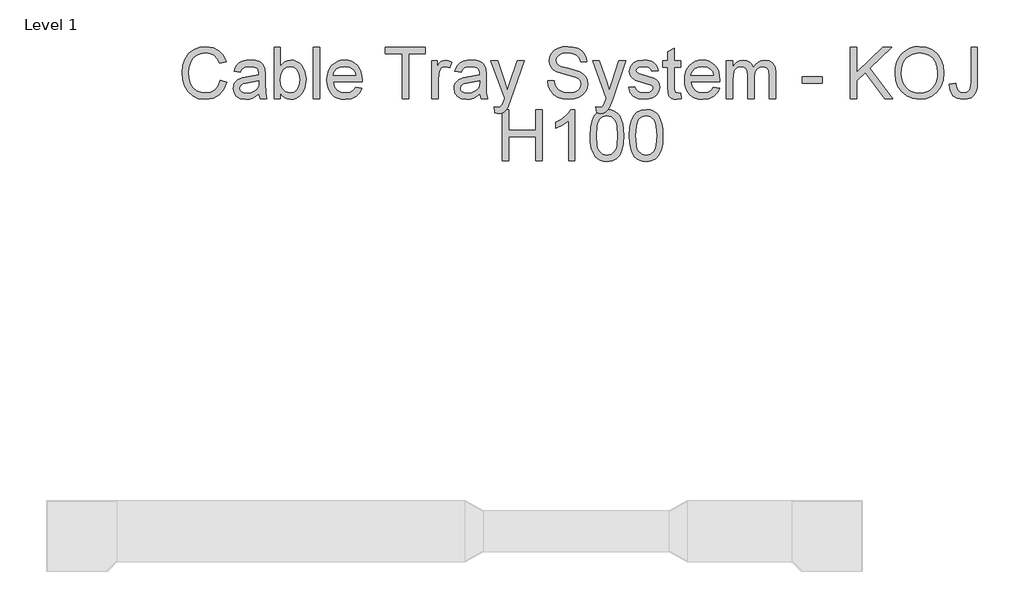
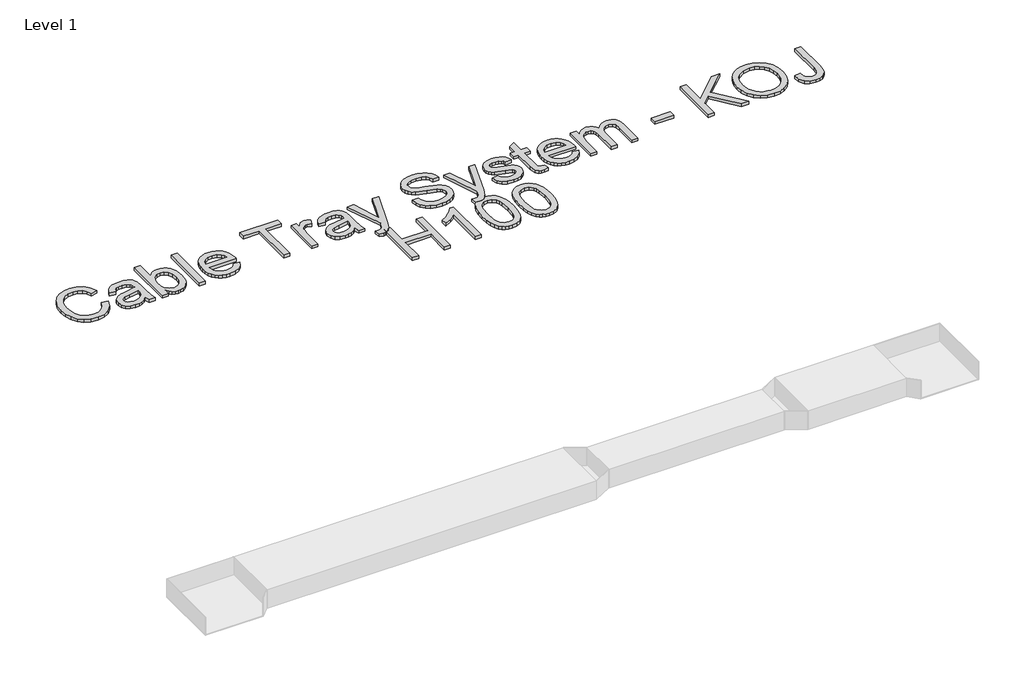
# One storey, part 99 of 106: 1 proxy.
"""IFC4 building model written with IfcOpenShell, lengths in millimetres."""

from ifc_helpers import new_model, si_unit, origin, origin_with_axes, place, context, project, spatial, polyline, outline, extrude, element, save

model = new_model("IFC4")

# Units and contexts
model_context = context("Model", 3, world=origin())
ifc_project = project(units=[si_unit("LENGTHUNIT", "METRE", prefix="MILLI")], contexts=[model_context])

# Site, building, storey
site = spatial("IfcSite", under=ifc_project)
building = spatial("IfcBuilding", under=site)
storey = spatial("IfcBuildingStorey", under=building, Name="Level 1", Elevation=0.0)

# Proxy
placement = place(None, origin())
element("IfcBuildingElementProxy", 1, Name="250mm Arial 3", ObjectType="250mm Arial 3", at=placement, inside=storey, context=model_context, shape_type="SweptSolid", body=[
    extrude(outline(polyline([(165659.6286386, 48792.4106539), (165691.0212356, 48784.31725), (165676.535882, 48747.7359841), (165653.8038404, 48721.01089), (165623.9440851, 48704.6631338), (165588.0755906, 48699.2138818), (165551.6629373, 48703.3372258), (165522.7458796, 48715.7072579), (165500.5809894, 48735.8947824), (165484.4248384, 48763.4706036), (165474.5610024, 48795.8902044), (165471.2730571, 48830.6090677), (165474.9901981, 48867.2286547), (165486.1416211, 48898.8511778), (165504.1448462, 48924.472626), (165528.4173937, 48943.0889877), (165557.2041598, 48954.4243517), (165588.7500409, 48958.2028064), (165623.1700001, 48953.3130415), (165651.6272053, 48938.643747), (165673.2326083, 48915.0992993), (165687.097161, 48883.584075), (165655.704564, 48876.1038078), (165644.8213883, 48898.9967978), (165629.9528244, 48914.7007605), (165610.9149311, 48923.7828472), (165587.5237676, 48926.8102095), (165560.561083, 48923.4532863), (165538.4115212, 48913.3825166), (165521.6039126, 48897.6555613), (165510.6670874, 48877.3300811), (165504.6660124, 48854.3527848), (165502.665654, 48830.6703814), (165505.0338944, 48801.6690174), (165512.1386154, 48776.5917281), (165524.2480644, 48756.3965394), (165541.6304887, 48742.0414774), (165562.4694709, 48733.4652284), (165584.9485936, 48730.6064787), (165611.1525216, 48734.4998965), (165632.9878508, 48746.1801498), (165649.4735627, 48765.5246114), (165659.6286386, 48792.4106539)])), origin_with_axes(), (0.0, 0.0, 1.0), 15.0),
    extrude(outline(polyline([(165847.9842202, 48726.6824041), (165832.9853647, 48713.8218627), (165817.5419851, 48705.406562), (165801.3015278, 48700.7620518), (165783.9114394, 48699.2138818), (165757.6768546, 48702.938687), (165738.3247288, 48714.1131026), (165726.3915566, 48731.0816596), (165722.4138325, 48752.1888891), (165723.9160173, 48765.2027147), (165728.4225717, 48777.0209238), (165744.2108407, 48795.0471415), (165766.1917899, 48805.3478374), (165793.3537439, 48810.0689897), (165847.8002792, 48820.8601949), (165847.9842202, 48827.8499528), (165845.8229135, 48841.8601254), (165839.3389933, 48851.0265185), (165824.8383113, 48857.8323354), (165804.6354584, 48860.100941), (165785.9347903, 48858.591092), (165772.8749795, 48854.0615449), (165763.9691695, 48845.6845653), (165757.730504, 48832.6324187), (165726.3379071, 48836.5564933), (165731.7871592, 48853.7243198), (165739.9188841, 48867.2133262), (165751.4918385, 48877.5293505), (165767.2647791, 48885.1782303), (165786.5555912, 48889.914711), (165808.6821604, 48891.4935379), (165829.904353, 48890.098652), (165846.72729, 48885.9139943), (165859.4115547, 48879.6216794), (165868.2177299, 48871.9038217), (165877.8439755, 48850.5973228), (165879.3768171, 48823.1288005), (165879.3768171, 48784.0719953), (165880.9709724, 48729.5334895), (165887.2249663, 48703.1379564), (165855.8323694, 48703.1379564), (165847.9842202, 48726.6824041)]), holes=[polyline([(165847.9842202, 48789.4675979), (165797.3391322, 48779.8413524), (165770.3304624, 48774.7523181), (165758.098386, 48766.4749732), (165753.8064294, 48754.3961811), (165756.1440129, 48745.0611754), (165763.1567635, 48737.4122956), (165774.6913968, 48732.3079329), (165790.5946289, 48730.6064787), (165807.455887, 48732.4842097), (165822.3551078, 48738.1174028), (165834.4339, 48746.4177403), (165842.8338722, 48756.2969047), (165846.5586774, 48766.4749732), (165847.8002792, 48780.5771164), (165847.9842202, 48789.4675979)])]), origin_with_axes(), (0.0, 0.0, 1.0), 15.0),
    extrude(outline(polyline([(165953.9342348, 48703.1379564), (165922.5416379, 48703.1379564), (165922.5416379, 48954.2787318), (165953.9342348, 48954.2787318), (165953.9342348, 48861.1432733), (165964.2579233, 48874.4215141), (165975.915184, 48883.9059718), (165988.906017, 48889.5966464), (166003.2304221, 48891.4935379), (166019.4019015, 48889.7844195), (166034.6843327, 48884.6570642), (166048.2039961, 48876.4333687), (166059.0871717, 48865.4352299), (166074.078363, 48835.5448178), (166079.5046225, 48798.1128248), (166073.8867578, 48756.2049342), (166066.864427, 48739.2746982), (166057.0331639, 48725.0269351), (166045.2321993, 48713.7337243), (166032.300764, 48705.6671451), (166018.2388579, 48700.8271976), (166003.0464811, 48699.2138818), (165988.2507272, 48701.2947143), (165975.1334348, 48707.5372119), (165963.694604, 48717.9413746), (165953.9342348, 48732.5072023), (165953.9342348, 48703.1379564)]), holes=[polyline([(165953.9342348, 48796.6412968), (165956.0802131, 48770.4603615), (165962.518148, 48752.7407121), (165978.9655389, 48736.140037), (166000.3486798, 48730.6064787), (166018.4668681, 48734.6838375), (166033.9485687, 48746.9159138), (166044.5711614, 48767.2260656), (166048.1120256, 48795.5376509), (166044.7167813, 48824.2631033), (166034.5310486, 48844.3433289), (166019.5321931, 48856.161538), (166001.6975805, 48860.100941), (165983.5793922, 48856.0235822), (165968.0976916, 48843.7915059), (165957.475099, 48823.8492361), (165953.9342348, 48796.6412968)])]), origin_with_axes(), (0.0, 0.0, 1.0), 15.0),
    extrude(outline(polyline([(166114.821294, 48703.1379564), (166114.821294, 48954.2787318), (166146.2138909, 48954.2787318), (166146.2138909, 48703.1379564), (166114.821294, 48703.1379564)])), origin_with_axes(), (0.0, 0.0, 1.0), 15.0),
    extrude(outline(polyline([(166322.4293666, 48758.075001), (166353.2088269, 48754.1509264), (166342.1187176, 48730.9590323), (166324.4220608, 48713.6225933), (166300.5173953, 48702.8160596), (166270.80326, 48699.2138818), (166251.3246747, 48700.7678), (166233.9690752, 48705.4295547), (166218.7364613, 48713.1991458), (166205.6268332, 48724.0765733), (166195.0847147, 48737.759101), (166187.5546301, 48753.9439928), (166183.0365794, 48772.6312485), (166181.5305625, 48793.8208682), (166183.0519078, 48815.7290074), (166187.6159438, 48835.0389801), (166195.2226705, 48851.7507861), (166205.8720878, 48865.8644256), (166218.9472271, 48877.0771622), (166233.8311195, 48885.0862598), (166250.523765, 48889.8917184), (166269.0251637, 48891.4935379), (166286.9306701, 48889.8955505), (166303.1232261, 48885.1015883), (166317.6028315, 48877.1116512), (166330.3694864, 48865.9257393), (166340.7908935, 48851.8427566), (166348.2347557, 48835.1616074), (166352.7010731, 48815.8822916), (166354.1898455, 48794.0048092), (166354.0059045, 48785.5435233), (166212.9231594, 48785.5435233), (166218.357083, 48762.0450609), (166230.980034, 48744.7699355), (166249.197857, 48734.1473429), (166271.4163966, 48730.6064787), (166288.1243706, 48732.2466193), (166302.1958569, 48737.1670409), (166313.6308556, 48745.6743121), (166322.4293666, 48758.075001)]), holes=[polyline([(166212.9231594, 48816.9361202), (166322.7972486, 48816.9361202), (166318.5512773, 48833.5214669), (166310.2279471, 48845.3856612), (166291.9258179, 48856.4221211), (166268.9025363, 48860.100941), (166247.7416574, 48857.1655493), (166230.24427, 48848.359374), (166218.0811715, 48834.632777), (166212.9231594, 48816.9361202)])]), origin_with_axes(), (0.0, 0.0, 1.0), 15.0),
    extrude(outline(polyline([(166550.3935763, 48703.1379564), (166550.3935763, 48922.8861348), (166467.9880094, 48922.8861348), (166467.9880094, 48954.2787318), (166664.1917401, 48954.2787318), (166664.1917401, 48922.8861348), (166581.7861732, 48922.8861348), (166581.7861732, 48703.1379564), (166550.3935763, 48703.1379564)])), origin_with_axes(), (0.0, 0.0, 1.0), 15.0),
    extrude(outline(polyline([(166695.5843371, 48703.1379564), (166695.5843371, 48887.5694633), (166723.0528594, 48887.5694633), (166723.0528594, 48860.284882), (166733.2002711, 48876.1038078), (166742.5506051, 48885.423485), (166762.1709782, 48891.4935379), (166777.805963, 48889.0716481), (166793.6862024, 48881.8059787), (166783.2015656, 48853.6630061), (166761.1286459, 48860.100941), (166751.7553192, 48858.5527709), (166743.3783396, 48853.9082608), (166732.0659683, 48836.7404343), (166726.976934, 48800.0748621), (166726.976934, 48703.1379564), (166695.5843371, 48703.1379564)])), origin_with_axes(), (0.0, 0.0, 1.0), 15.0),
    extrude(outline(polyline([(166931.028814, 48726.6824041), (166916.0299585, 48713.8218627), (166900.5865789, 48705.406562), (166884.3461216, 48700.7620518), (166866.9560332, 48699.2138818), (166840.7214484, 48702.938687), (166821.3693226, 48714.1131026), (166809.4361504, 48731.0816596), (166805.4584263, 48752.1888891), (166806.9606111, 48765.2027147), (166811.4671655, 48777.0209238), (166827.2554345, 48795.0471415), (166849.2363837, 48805.3478374), (166876.3983377, 48810.0689897), (166930.844873, 48820.8601949), (166931.028814, 48827.8499528), (166928.8675073, 48841.8601254), (166922.3835871, 48851.0265185), (166907.8829051, 48857.8323354), (166887.6800522, 48860.100941), (166868.9793841, 48858.591092), (166855.9195733, 48854.0615449), (166847.0137633, 48845.6845653), (166840.7750978, 48832.6324187), (166809.3825009, 48836.5564933), (166814.831753, 48853.7243198), (166822.9634779, 48867.2133262), (166834.5364323, 48877.5293505), (166850.3093729, 48885.1782303), (166869.600185, 48889.914711), (166891.7267542, 48891.4935379), (166912.9489468, 48890.098652), (166929.7718838, 48885.9139943), (166942.4561485, 48879.6216794), (166951.2623237, 48871.9038217), (166960.8885693, 48850.5973228), (166962.4214109, 48823.1288005), (166962.4214109, 48784.0719953), (166964.0155662, 48729.5334895), (166970.2695601, 48703.1379564), (166938.8769632, 48703.1379564), (166931.028814, 48726.6824041)]), holes=[polyline([(166931.028814, 48789.4675979), (166880.383726, 48779.8413524), (166853.3750562, 48774.7523181), (166841.1429798, 48766.4749732), (166836.8510232, 48754.3961811), (166839.1886067, 48745.0611754), (166846.2013573, 48737.4122956), (166857.7359906, 48732.3079329), (166873.6392227, 48730.6064787), (166890.5004808, 48732.4842097), (166905.3997016, 48738.1174028), (166917.4784938, 48746.4177403), (166925.878466, 48756.2969047), (166929.6032712, 48766.4749732), (166930.844873, 48780.5771164), (166931.028814, 48789.4675979)])]), origin_with_axes(), (0.0, 0.0, 1.0), 15.0),
    extrude(outline(polyline([(167005.5862317, 48632.5046133), (167001.6621571, 48662.7322506), (167017.6037102, 48659.9731356), (167032.502931, 48663.4373577), (167041.6386672, 48673.0942601), (167050.2225804, 48696.2095122), (167052.6751271, 48703.8124067), (166985.9658586, 48887.5694633), (167019.0139245, 48887.5694633), (167054.4532234, 48785.1143277), (167066.7772702, 48744.1567989), (167079.101317, 48780.3931754), (167115.4603209, 48887.5694633), (167148.2631321, 48887.5694633), (167084.067724, 48698.7233725), (167067.3904069, 48657.7658437), (167058.8524789, 48644.6907044), (167049.1802481, 48635.6316103), (167037.9598472, 48630.3433066), (167024.7774091, 48628.5805387), (167005.5862317, 48632.5046133)])), origin_with_axes(), (0.0, 0.0, 1.0), 15.0),
    extrude(outline(polyline([(167264.5751563, 48789.4675979), (167295.9677532, 48789.4675979), (167299.5699311, 48772.0468526), (167306.0845081, 48758.0443442), (167316.2472482, 48746.9312422), (167330.7939154, 48738.1787164), (167348.5748785, 48732.4995381), (167368.4405062, 48730.6064787), (167385.9302294, 48732.0396856), (167401.2433175, 48736.3393065), (167413.6516706, 48743.1451234), (167422.427189, 48752.0969186), (167427.6465148, 48762.3746218), (167429.3862901, 48773.1581628), (167424.1746285, 48792.7478791), (167416.2345088, 48800.4963936), (167402.8374728, 48807.0033064), (167357.1281349, 48818.990128), (167307.923918, 48834.4718287), (167292.2965975, 48845.0331076), (167281.2218166, 48857.8323354), (167274.6229333, 48872.5936004), (167272.4233055, 48889.0409913), (167275.1440994, 48907.4274268), (167283.3064812, 48924.5722607), (167296.695853, 48939.1035995), (167315.0976169, 48949.64955), (167337.1858651, 48956.0644923), (167361.6346893, 48958.2028064), (167388.122193, 48955.9648576), (167411.2987587, 48949.2510112), (167430.3366519, 48938.1992229), (167444.4081382, 48922.9474485), (167453.3139482, 48904.4460498), (167456.8548124, 48883.6453887), (167425.4622155, 48883.6453887), (167419.6987309, 48902.3767136), (167407.6812524, 48915.8963769), (167388.9039422, 48924.0817513), (167362.8609627, 48926.8102095), (167336.2048464, 48924.1124082), (167317.9180456, 48916.0190043), (167307.3414382, 48904.1088247), (167303.8159024, 48889.9606963), (167306.3144343, 48877.8972325), (167313.81003, 48868.1943449), (167331.5296794, 48859.5184612), (167365.0682546, 48850.6586365), (167420.6184359, 48834.9010243), (167438.5143621, 48823.5120109), (167450.9993573, 48809.455853), (167458.3340046, 48792.8858348), (167460.778887, 48773.9552405), (167457.9661226, 48754.6031147), (167449.5278293, 48736.4006201), (167435.8088966, 48720.7349785), (167417.1542138, 48708.9934115), (167394.7210763, 48701.6587642), (167369.6667796, 48699.2138818), (167338.9103119, 48701.8503694), (167313.5954321, 48709.7598323), (167293.4309003, 48722.9729273), (167278.1254764, 48741.5203112), (167268.2999615, 48764.1143971), (167264.5751563, 48789.4675979)])), origin_with_axes(), (0.0, 0.0, 1.0), 15.0),
    extrude(outline(polyline([(167503.9437078, 48632.5046133), (167500.0196332, 48662.7322506), (167515.9611863, 48659.9731356), (167530.8604071, 48663.4373577), (167539.9961433, 48673.0942601), (167548.5800565, 48696.2095122), (167551.0326032, 48703.8124067), (167484.3233347, 48887.5694633), (167517.3714006, 48887.5694633), (167552.8106995, 48785.1143277), (167565.1347463, 48744.1567989), (167577.4587932, 48780.3931754), (167613.817797, 48887.5694633), (167646.6206083, 48887.5694633), (167582.4252001, 48698.7233725), (167565.747883, 48657.7658437), (167557.209955, 48644.6907044), (167547.5377242, 48635.6316103), (167536.3173234, 48630.3433066), (167523.1348852, 48628.5805387), (167503.9437078, 48632.5046133)])), origin_with_axes(), (0.0, 0.0, 1.0), 15.0),
    extrude(outline(polyline([(167660.9066924, 48758.075001), (167692.2992893, 48761.9990756), (167697.2503678, 48748.5713828), (167706.8306281, 48738.6998826), (167721.1013839, 48732.6298297), (167740.1239487, 48730.6064787), (167758.9165873, 48732.4612171), (167772.1296823, 48738.0254323), (167779.9471747, 48746.0881793), (167782.5530055, 48755.4385134), (167779.9318463, 48763.4399468), (167772.0683686, 48769.5406565), (167739.7560667, 48778.4924517), (167692.4832303, 48793.851525), (167680.5194013, 48801.5693827), (167671.8511818, 48811.7857723), (167666.5858707, 48823.8492361), (167664.830767, 48837.1083163), (167670.4716243, 48860.4994798), (167685.8613544, 48878.3724134), (167705.8189527, 48887.6614338), (167732.8276225, 48891.4935379), (167753.2604016, 48889.9530321), (167771.0260363, 48885.3315145), (167785.3121204, 48878.0811735), (167795.306248, 48868.6541974), (167801.9281239, 48856.3531432), (167806.0974532, 48840.4805679), (167774.7048563, 48836.5564933), (167770.7424606, 48846.4356577), (167762.9019756, 48853.8776039), (167751.1067591, 48858.5451067), (167735.2801691, 48860.100941), (167717.2539513, 48858.6140846), (167705.2364728, 48854.1535154), (167698.4766412, 48847.7155805), (167696.2233639, 48840.2966269), (167699.9634976, 48831.1608907), (167711.6744077, 48824.2324465), (167738.7137344, 48817.5492569), (167784.7909543, 48802.7726634), (167796.961717, 48795.7062634), (167806.1894237, 48786.0340326), (167812.0065577, 48773.7253142), (167813.9456024, 48758.7494513), (167811.6693326, 48743.2677507), (167804.840523, 48728.7057551), (167793.7197569, 48716.2054314), (167778.5676172, 48706.9087468), (167760.2654879, 48701.137598), (167739.694753, 48699.2138818), (167708.041573, 48702.9233586), (167684.9416494, 48714.0517889), (167669.5212625, 48732.4765455), (167660.9066924, 48758.075001)])), origin_with_axes(), (0.0, 0.0, 1.0), 15.0),
    extrude(outline(polyline([(167915.9715424, 48729.3188917), (167919.895617, 48702.2182514), (167896.412483, 48699.2138818), (167881.3446496, 48700.5167972), (167870.1089203, 48704.4255434), (167856.9877958, 48718.0984909), (167853.1863486, 48753.7217307), (167853.1863486, 48856.1768664), (167829.6419009, 48856.1768664), (167829.6419009, 48887.5694633), (167853.1863486, 48887.5694633), (167853.1863486, 48932.3897531), (167884.5789455, 48950.8451665), (167884.5789455, 48887.5694633), (167915.9715424, 48887.5694633), (167915.9715424, 48856.1768664), (167884.5789455, 48856.1768664), (167884.5789455, 48754.6414357), (167886.2344145, 48738.4546279), (167891.5993602, 48732.7218002), (167902.2985949, 48730.6064787), (167915.9715424, 48729.3188917)])), origin_with_axes(), (0.0, 0.0, 1.0), 15.0),
    extrude(outline(polyline([(168076.4907196, 48758.075001), (168107.2701799, 48754.1509264), (168096.1800706, 48730.9590323), (168078.4834138, 48713.6225933), (168054.5787483, 48702.8160596), (168024.864613, 48699.2138818), (168005.3860277, 48700.7678), (167988.0304282, 48705.4295547), (167972.7978143, 48713.1991458), (167959.6881862, 48724.0765733), (167949.1460677, 48737.759101), (167941.6159831, 48753.9439928), (167937.0979324, 48772.6312485), (167935.5919155, 48793.8208682), (167937.1132608, 48815.7290074), (167941.6772968, 48835.0389801), (167949.2840235, 48851.7507861), (167959.9334408, 48865.8644256), (167973.0085801, 48877.0771622), (167987.8924725, 48885.0862598), (168004.585118, 48889.8917184), (168023.0865167, 48891.4935379), (168040.9920231, 48889.8955505), (168057.1845791, 48885.1015883), (168071.6641845, 48877.1116512), (168084.4308394, 48865.9257393), (168094.8522465, 48851.8427566), (168102.2961087, 48835.1616074), (168106.7624261, 48815.8822916), (168108.2511985, 48794.0048092), (168108.0672575, 48785.5435233), (167966.9845124, 48785.5435233), (167972.418436, 48762.0450609), (167985.041387, 48744.7699355), (168003.25921, 48734.1473429), (168025.4777496, 48730.6064787), (168042.1857236, 48732.2466193), (168056.2572099, 48737.1670409), (168067.6922086, 48745.6743121), (168076.4907196, 48758.075001)]), holes=[polyline([(167966.9845124, 48816.9361202), (168076.8586016, 48816.9361202), (168072.6126303, 48833.5214669), (168064.2893001, 48845.3856612), (168045.9871709, 48856.4221211), (168022.9638893, 48860.100941), (168001.8030104, 48857.1655493), (167984.305623, 48848.359374), (167972.1425245, 48834.632777), (167966.9845124, 48816.9361202)])]), origin_with_axes(), (0.0, 0.0, 1.0), 15.0),
    extrude(outline(polyline([(168139.6437955, 48703.1379564), (168139.6437955, 48887.5694633), (168171.0363924, 48887.5694633), (168171.0363924, 48857.2191987), (168180.4786969, 48871.1603935), (168192.6188028, 48882.0818902), (168207.0428427, 48889.140626), (168223.3369494, 48891.4935379), (168240.7960157, 48889.0946407), (168254.79086, 48881.8979492), (168265.24484, 48870.3786442), (168272.0813137, 48855.0119067), (168283.5239766, 48870.9726204), (168296.5761232, 48882.3731301), (168311.2377536, 48889.213436), (168327.5088677, 48891.4935379), (168351.1069648, 48887.6997549), (168368.558367, 48876.3184056), (168379.3419079, 48857.0429219), (168382.9364216, 48829.5667354), (168382.9364216, 48703.1379564), (168351.5438247, 48703.1379564), (168351.5438247, 48816.0777289), (168348.6314256, 48842.2893211), (168338.085475, 48855.1958477), (168320.1512278, 48860.100941), (168303.1443497, 48856.9586156), (168289.279797, 48847.5316395), (168280.0597545, 48831.1762191), (168276.986407, 48807.248561), (168276.986407, 48703.1379564), (168245.5938101, 48703.1379564), (168245.5938101, 48819.5726079), (168243.7773927, 48837.3229141), (168238.3281407, 48849.9841861), (168228.7402162, 48857.5717523), (168214.5077815, 48860.100941), (168202.4136609, 48858.4148152), (168191.2699021, 48853.3564378), (168182.0728522, 48845.048436), (168175.8188583, 48833.6134374), (168171.0363924, 48796.1507875), (168171.0363924, 48703.1379564), (168139.6437955, 48703.1379564)])), origin_with_axes(), (0.0, 0.0, 1.0), 15.0),
    extrude(outline(polyline([(168512.4308839, 48777.6953741), (168512.4308839, 48809.087971), (168610.5327493, 48809.087971), (168610.5327493, 48777.6953741), (168512.4308839, 48777.6953741)])), origin_with_axes(), (0.0, 0.0, 1.0), 15.0),
    extrude(outline(polyline([(168747.8753608, 48703.1379564), (168747.8753608, 48954.2787318), (168779.2679577, 48954.2787318), (168779.2679577, 48831.3448317), (168908.0266561, 48954.2787318), (168951.9272408, 48954.2787318), (168843.7699342, 48851.0265185), (168955.8513154, 48703.1379564), (168917.4689606, 48703.1379564), (168821.5130735, 48829.8119901), (168779.2679577, 48789.4675979), (168779.2679577, 48703.1379564), (168747.8753608, 48703.1379564)])), origin_with_axes(), (0.0, 0.0, 1.0), 15.0),
    extrude(outline(polyline([(168967.6235393, 48825.3974061), (168969.7158681, 48854.8547905), (168975.9928547, 48880.932259), (168986.4544989, 48903.6298117), (169001.1008008, 48922.9474485), (169019.0542086, 48938.3716676), (169039.4371704, 48949.3889669), (169062.2496862, 48955.9993465), (169087.491756, 48958.2028064), (169120.432523, 48954.0641339), (169149.9703816, 48941.6481166), (169174.4958479, 48921.8284741), (169192.3994383, 48895.4789262), (169203.3439277, 48863.8717315), (169206.9920908, 48828.2791484), (169203.1523225, 48792.2113845), (169191.6330175, 48760.1596656), (169173.0703052, 48733.7641325), (169148.1003147, 48714.6649256), (169118.8153751, 48703.0766427), (169087.307815, 48699.2138818), (169053.8612103, 48703.4828458), (169024.1547392, 48716.2897377), (168999.6905865, 48736.4772622), (168981.9709371, 48762.8881238), (168971.2103887, 48793.2767094), (168967.6235393, 48825.3974061)]), holes=[polyline([(168999.0161362, 48825.0908378), (169000.5853828, 48804.2786803), (169005.2931227, 48785.8041064), (169013.1393559, 48769.667116), (169024.1240824, 48755.867709), (169037.4770492, 48744.8159208), (169052.4280034, 48736.9217863), (169068.976945, 48732.1853056), (169087.123874, 48730.6064787), (169105.5812035, 48732.200634), (169122.3255825, 48736.9831), (169137.3570109, 48744.9538765), (169150.6754887, 48756.1129637), (169161.579741, 48770.2036105), (169169.3684926, 48786.969066), (169174.0417436, 48806.4093302), (169175.5994939, 48828.5244031), (169172.9323494, 48856.3148221), (169164.930916, 48880.3344507), (169151.8021273, 48899.9778164), (169133.7529169, 48914.6394468), (169111.9789013, 48923.7675188), (169087.675697, 48926.8102095), (169053.9071956, 48920.9470902), (169025.1970715, 48903.3577323), (169013.7429123, 48889.6713724), (169005.56137, 48872.0647701), (169000.6524447, 48850.5379252), (168999.0161362, 48825.0908378)])]), origin_with_axes(), (0.0, 0.0, 1.0), 15.0),
    extrude(outline(polyline([(169234.4606131, 48773.6486721), (169265.85321, 48777.6953741), (169269.1181627, 48754.871362), (169276.5831016, 48740.6006062), (169287.9874434, 48733.1050106), (169303.0706052, 48730.6064787), (169314.6665523, 48732.0243572), (169324.5610451, 48736.2779928), (169332.1945965, 48742.9765108), (169337.0077193, 48751.7290366), (169340.4106277, 48782.845722), (169340.4106277, 48954.2787318), (169371.8032246, 48954.2787318), (169371.8032246, 48783.397545), (169369.9101652, 48755.4461776), (169364.2309869, 48734.6225238), (169354.4361288, 48719.4090705), (169340.1960299, 48708.2883043), (169322.3154321, 48701.4824874), (169301.5990772, 48699.2138818), (169272.5823849, 48703.896713), (169251.2605576, 48717.9452067), (169238.3233741, 48741.2367355), (169234.4606131, 48773.6486721)])), origin_with_axes(), (0.0, 0.0, 1.0), 15.0),
    extrude(outline(polyline([(167040.9029032, 48398.2009118), (167040.9029032, 48649.3416872), (167072.2955001, 48649.3416872), (167072.2955001, 48547.3157472), (167205.714037, 48547.3157472), (167205.714037, 48649.3416872), (167237.106634, 48649.3416872), (167237.106634, 48398.2009118), (167205.714037, 48398.2009118), (167205.714037, 48515.9231502), (167072.2955001, 48515.9231502), (167072.2955001, 48398.2009118), (167040.9029032, 48398.2009118)])), origin_with_axes(), (0.0, 0.0, 1.0), 15.0),
    extrude(outline(polyline([(167397.9936932, 48398.2009118), (167366.6010963, 48398.2009118), (167366.6010963, 48593.9141332), (167336.8639683, 48572.7302617), (167303.8159024, 48556.880679), (167303.8159024, 48586.5564933), (167328.4716603, 48599.9688577), (167349.8318087, 48615.9257393), (167366.6700741, 48632.8942963), (167377.7601835, 48649.3416872), (167397.9936932, 48649.3416872), (167397.9936932, 48398.2009118)])), origin_with_axes(), (0.0, 0.0, 1.0), 15.0),
    extrude(outline(polyline([(167472.5511109, 48521.7479485), (167474.8580376, 48561.9467207), (167481.7788176, 48594.0061037), (167493.2444731, 48618.4166069), (167509.1860262, 48635.6687397), (167529.7184401, 48645.9234503), (167554.9566778, 48649.3416872), (167574.3011394, 48647.3183362), (167591.62225, 48641.2482833), (167606.1076035, 48631.3691189), (167616.944794, 48617.9184334), (167631.6600738, 48580.7623519), (167635.936702, 48555.0489333), (167637.3622447, 48521.7479485), (167635.0783107, 48481.7791026), (167628.2265085, 48449.7963616), (167616.8298309, 48425.3628658), (167600.9112704, 48408.0417552), (167580.3328713, 48397.7180667), (167554.9566778, 48394.2768372), (167537.666224, 48395.7713578), (167522.3378076, 48400.2549196), (167508.9714284, 48407.7275226), (167497.5670866, 48418.1891669), (167486.6225972, 48437.1006007), (167478.8051048, 48460.6642089), (167474.1146094, 48488.8799915), (167472.5511109, 48521.7479485)]), holes=[polyline([(167503.9437078, 48521.8092622), (167507.6225278, 48472.4287685), (167512.2210527, 48455.5387696), (167518.6589876, 48443.848936), (167535.0910501, 48430.2143096), (167554.9566778, 48425.6694341), (167574.8223055, 48430.229638), (167591.254368, 48443.9102497), (167597.6923029, 48455.6192438), (167602.2908278, 48472.5054106), (167605.9696478, 48521.8092622), (167602.4134552, 48570.0784456), (167597.9682144, 48586.912879), (167591.7448773, 48598.8805402), (167575.3434717, 48613.1819527), (167554.5887958, 48617.9490902), (167534.9377659, 48613.7491041), (167519.1494969, 48601.1491458), (167512.4969642, 48588.1199918), (167507.7451551, 48570.5536265), (167503.9437078, 48521.8092622)])]), origin_with_axes(), (0.0, 0.0, 1.0), 15.0),
    extrude(outline(polyline([(167664.830767, 48521.7479485), (167667.1376937, 48561.9467207), (167674.0584737, 48594.0061037), (167685.5241293, 48618.4166069), (167701.4656824, 48635.6687397), (167721.9980962, 48645.9234503), (167747.2363339, 48649.3416872), (167766.5807955, 48647.3183362), (167783.9019061, 48641.2482833), (167798.3872597, 48631.3691189), (167809.2244501, 48617.9184334), (167823.9397299, 48580.7623519), (167828.2163581, 48555.0489333), (167829.6419009, 48521.7479485), (167827.3579668, 48481.7791026), (167820.5061647, 48449.7963616), (167809.109487, 48425.3628658), (167793.1909265, 48408.0417552), (167772.6125274, 48397.7180667), (167747.2363339, 48394.2768372), (167729.9458802, 48395.7713578), (167714.6174637, 48400.2549196), (167701.2510845, 48407.7275226), (167689.8467427, 48418.1891669), (167678.9022533, 48437.1006007), (167671.0847609, 48460.6642089), (167666.3942655, 48488.8799915), (167664.830767, 48521.7479485)]), holes=[polyline([(167696.2233639, 48521.8092622), (167699.9021839, 48472.4287685), (167704.5007088, 48455.5387696), (167710.9386438, 48443.848936), (167727.3707062, 48430.2143096), (167747.2363339, 48425.6694341), (167767.1019617, 48430.229638), (167783.5340241, 48443.9102497), (167789.9719591, 48455.6192438), (167794.570484, 48472.5054106), (167798.2493039, 48521.8092622), (167794.6931113, 48570.0784456), (167790.2478705, 48586.912879), (167784.0245335, 48598.8805402), (167767.6231278, 48613.1819527), (167746.8684519, 48617.9490902), (167727.217422, 48613.7491041), (167711.4291531, 48601.1491458), (167704.7766203, 48588.1199918), (167700.0248112, 48570.5536265), (167696.2233639, 48521.8092622)])]), origin_with_axes(), (0.0, 0.0, 1.0), 15.0),
])

save(model, "model.ifc")
